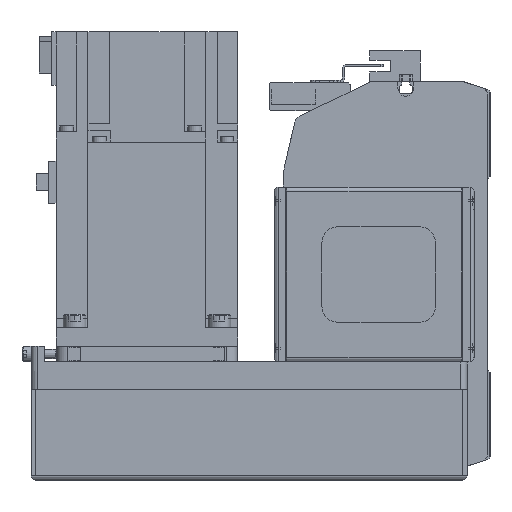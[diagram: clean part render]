
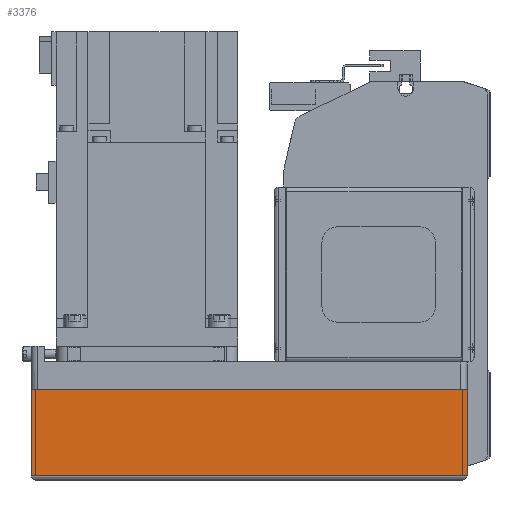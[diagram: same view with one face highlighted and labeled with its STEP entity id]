
A CAD part, left-side view. The second image highlights one B-rep face of the part: STEP entity #3376.
In plain terms, the highlighted planar face has unit normal (-1, 0, 0) as drawn and (0, -1, 0) by its records, which use the part's own axes.
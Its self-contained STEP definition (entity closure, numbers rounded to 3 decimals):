
#3376 = ADVANCED_FACE( '', ( #7019 ), #7020, .T. );
#7019 = FACE_OUTER_BOUND( '', #10637, .T. );
#7020 = PLANE( '', #10638 );
#10637 = EDGE_LOOP( '', ( #20150, #20151, #20152, #20153 ) );
#10638 = AXIS2_PLACEMENT_3D( '', #20154, #20155, #20156 );
#20150 = ORIENTED_EDGE( '', *, *, #23862, .F. );
#20151 = ORIENTED_EDGE( '', *, *, #23996, .F. );
#20152 = ORIENTED_EDGE( '', *, *, #23899, .T. );
#20153 = ORIENTED_EDGE( '', *, *, #23605, .T. );
#20154 = CARTESIAN_POINT( '', ( -192., -40., -12.1 ) );
#20155 = DIRECTION( '', ( 0., -1., 0. ) );
#20156 = DIRECTION( '', ( 0., 0., -1. ) );
#23605 = EDGE_CURVE( '', #29115, #28453, #29117, .T. );
#23862 = EDGE_CURVE( '', #24463, #28453, #29403, .T. );
#23899 = EDGE_CURVE( '', #28062, #29115, #29442, .T. );
#23996 = EDGE_CURVE( '', #28062, #24463, #29542, .T. );
#24463 = VERTEX_POINT( '', #30219 );
#28062 = VERTEX_POINT( '', #35933 );
#28453 = VERTEX_POINT( '', #36496 );
#29115 = VERTEX_POINT( '', #37522 );
#29117 = LINE( '', #37524, #37525 );
#29403 = LINE( '', #37896, #37897 );
#29442 = LINE( '', #37948, #37949 );
#29542 = LINE( '', #38086, #38087 );
#30219 = CARTESIAN_POINT( '', ( 0., -40., -12.1 ) );
#35933 = CARTESIAN_POINT( '', ( -192., -40., -12.1 ) );
#36496 = CARTESIAN_POINT( '', ( 0., -40., -50. ) );
#37522 = CARTESIAN_POINT( '', ( -192., -40., -50. ) );
#37524 = CARTESIAN_POINT( '', ( -192., -40., -50. ) );
#37525 = VECTOR( '', #42171, 1000. );
#37896 = CARTESIAN_POINT( '', ( 0., -40., -12.1 ) );
#37897 = VECTOR( '', #42340, 1000. );
#37948 = CARTESIAN_POINT( '', ( -192., -40., -12.1 ) );
#37949 = VECTOR( '', #42356, 1000. );
#38086 = CARTESIAN_POINT( '', ( -192., -40., -12.1 ) );
#38087 = VECTOR( '', #42378, 1000. );
#42171 = DIRECTION( '', ( 1., 0., 0. ) );
#42340 = DIRECTION( '', ( 0., 0., -1. ) );
#42356 = DIRECTION( '', ( 0., 0., -1. ) );
#42378 = DIRECTION( '', ( 1., 0., 0. ) );
